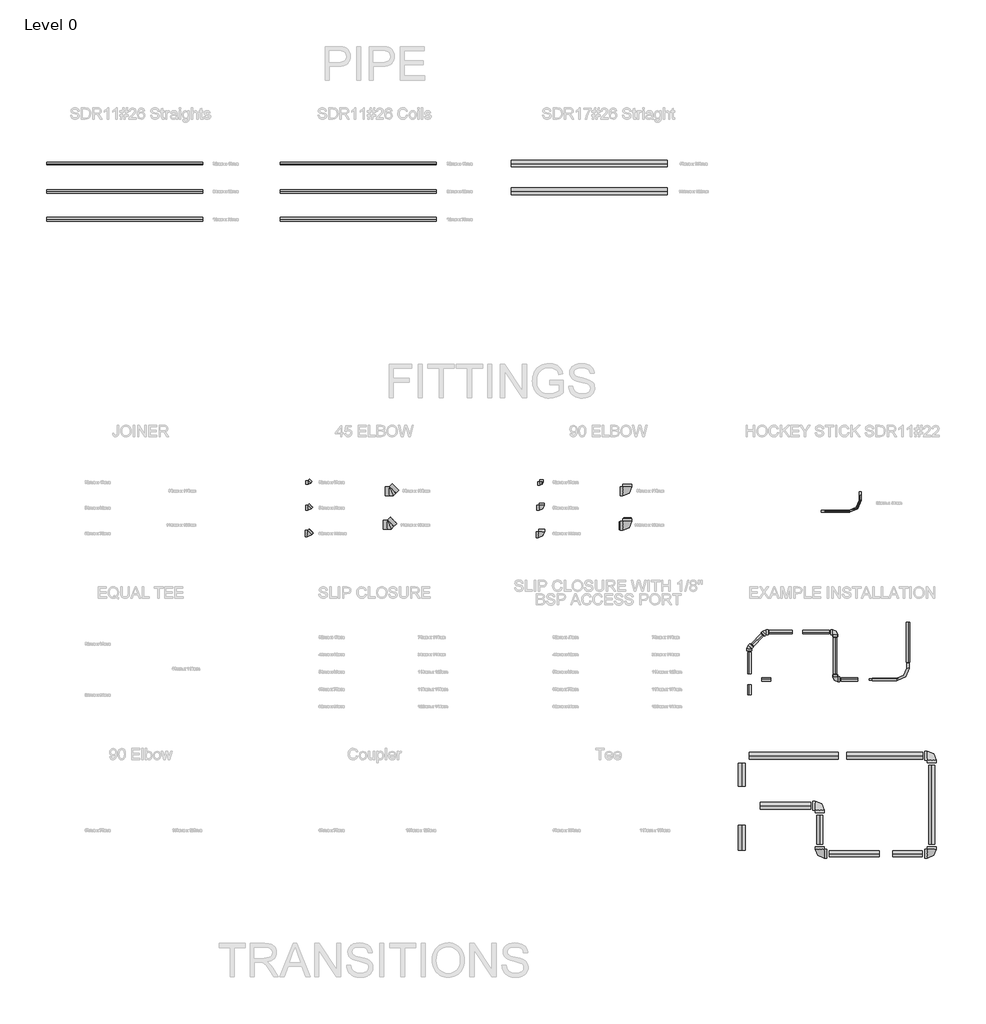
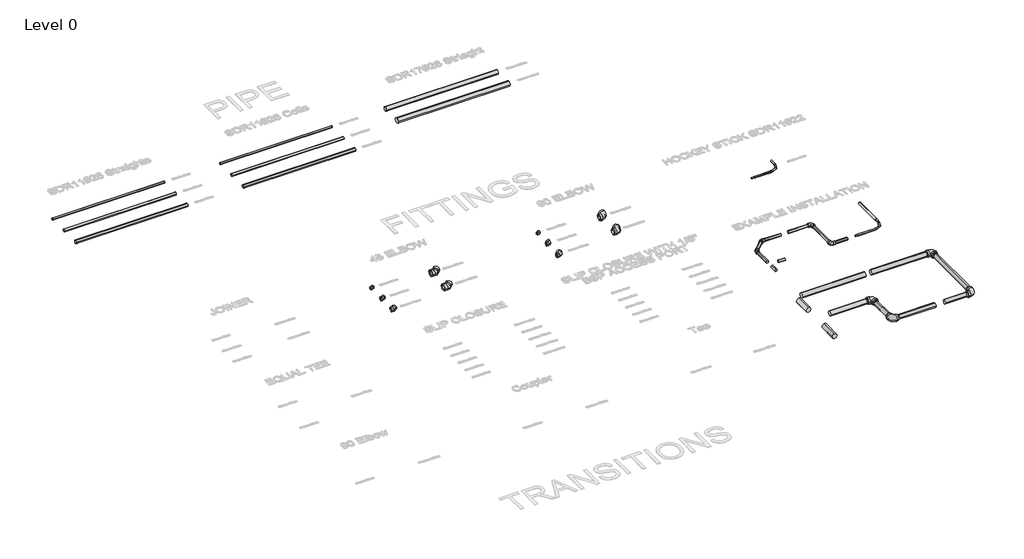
# One storey, part 1 of 21: 46 pipe fittings.
"""IFC4 building model written with IfcOpenShell, lengths in millimetres."""

from ifc_helpers import new_model, si_unit, point, frame, frame_2d, origin, place, context, project, spatial, circle_curve, trimmed, segment, composite_curve, outline, extrude, transform, mapped, element, save
from components import pipe_fitting_110mm_x_160mm_b5c858ce, pipe_fitting_110mm_x_160mm_ff918d63, pipe_fitting_32mm_x_40mm_faf2e842, pipe_fitting_32mm_x_63mm_b57f120e, pipe_fitting_32mm_x_63mm_78bfc543, pipe_fitting_50mm_x_90mm_f965051a, pipe_fitting_50mm_x_90mm_390558eb, pipe_fitting_63mm_x_110mm_ed71349d, pipe_fitting_63mm_x_110mm_e73a593b, pipe_fitting_90mm_x_160mm_308f8551, pipe_fitting_90mm_x_160mm_57b9e27f

model = new_model("IFC4")

# Units and contexts
model_context = context("Model", 3, world=origin())
ifc_project = project(units=[si_unit("LENGTHUNIT", "METRE", prefix="MILLI")], contexts=[model_context])

# Site, building, storey
site = spatial("IfcSite", under=ifc_project)
building = spatial("IfcBuilding", under=site)
storey = spatial("IfcBuildingStorey", under=building, Name="Level 0", Elevation=0.0)

# Pipe fittings
placement = place(None, origin())
element("IfcPipeFitting", 1, ObjectType="SDR17#26 Striaght", at=placement, inside=storey, context=model_context, shape_type="SweptSolid", body=[
    extrude(outline(composite_curve([segment(trimmed(circle_curve(frame_2d((3349.2704861, 0.0)), 55.0), [point((3404.2704861, 0.0))], [point((3349.2704861, -55.0))], False, "CARTESIAN"), True, "CONTINUOUS"), segment(trimmed(circle_curve(frame_2d((3349.2704861, 0.0)), 55.0), [point((3349.2704861, -55.0))], [point((3294.2704861, 0.0))], False, "CARTESIAN"), True, "CONTINUOUS"), segment(trimmed(circle_curve(frame_2d((3349.2704861, 0.0)), 55.0), [point((3294.2704861, 0.0))], [point((3349.2704861, 55.0))], False, "CARTESIAN"), True, "CONTINUOUS"), segment(trimmed(circle_curve(frame_2d((3349.2704861, 0.0)), 55.0), [point((3349.2704861, 55.0))], [point((3404.2704861, 0.0))], False, "CARTESIAN"), True, "CONTINUOUS")], self_intersect=False)), frame((-3990.0674359, 0.0, 0.0), z_axis=(1.0, 0.0, 0.0), x_axis=(0.0, 1.0, 0.0)), (0.0, 0.0, 1.0), 2800.0),
])
element("IfcPipeFitting", 2, ObjectType="SDR17#26 Striaght", at=placement, inside=storey, context=model_context, shape_type="SweptSolid", body=[
    extrude(outline(composite_curve([segment(trimmed(circle_curve(frame_2d((2849.2704861, 0.0)), 62.5), [point((2911.7704861, 0.0))], [point((2849.2704861, -62.5))], False, "CARTESIAN"), True, "CONTINUOUS"), segment(trimmed(circle_curve(frame_2d((2849.2704861, 0.0)), 62.5), [point((2849.2704861, -62.5))], [point((2786.7704861, 0.0))], False, "CARTESIAN"), True, "CONTINUOUS"), segment(trimmed(circle_curve(frame_2d((2849.2704861, 0.0)), 62.5), [point((2786.7704861, 0.0))], [point((2849.2704861, 62.5))], False, "CARTESIAN"), True, "CONTINUOUS"), segment(trimmed(circle_curve(frame_2d((2849.2704861, 0.0)), 62.5), [point((2849.2704861, 62.5))], [point((2911.7704861, 0.0))], False, "CARTESIAN"), True, "CONTINUOUS")], self_intersect=False)), frame((-3990.0674359, 0.0, 0.0), z_axis=(1.0, 0.0, 0.0), x_axis=(0.0, 1.0, 0.0)), (0.0, 0.0, 1.0), 2800.0),
])
element("IfcPipeFitting", 3, ObjectType="SDR11#26 Coils", at=placement, inside=storey, context=model_context, shape_type="SweptSolid", body=[
    extrude(outline(composite_curve([segment(trimmed(circle_curve(frame_2d((3349.2704861, 0.0)), 20.0), [point((3369.2704861, 0.0))], [point((3349.2704861, -20.0))], False, "CARTESIAN"), True, "CONTINUOUS"), segment(trimmed(circle_curve(frame_2d((3349.2704861, 0.0)), 20.0), [point((3349.2704861, -20.0))], [point((3329.2704861, 0.0))], False, "CARTESIAN"), True, "CONTINUOUS"), segment(trimmed(circle_curve(frame_2d((3349.2704861, 0.0)), 20.0), [point((3329.2704861, 0.0))], [point((3349.2704861, 20.0))], False, "CARTESIAN"), True, "CONTINUOUS"), segment(trimmed(circle_curve(frame_2d((3349.2704861, 0.0)), 20.0), [point((3349.2704861, 20.0))], [point((3369.2704861, 0.0))], False, "CARTESIAN"), True, "CONTINUOUS")], self_intersect=False)), frame((-8128.8002581, 0.0, 0.0), z_axis=(1.0, 0.0, 0.0), x_axis=(0.0, 1.0, 0.0)), (0.0, 0.0, 1.0), 2800.0),
])
element("IfcPipeFitting", 4, ObjectType="SDR11#26 Coils", at=placement, inside=storey, context=model_context, shape_type="SweptSolid", body=[
    extrude(outline(composite_curve([segment(trimmed(circle_curve(frame_2d((2849.2704861, 0.0)), 31.5), [point((2880.7704861, 0.0))], [point((2849.2704861, -31.5))], False, "CARTESIAN"), True, "CONTINUOUS"), segment(trimmed(circle_curve(frame_2d((2849.2704861, 0.0)), 31.5), [point((2849.2704861, -31.5))], [point((2817.7704861, 0.0))], False, "CARTESIAN"), True, "CONTINUOUS"), segment(trimmed(circle_curve(frame_2d((2849.2704861, 0.0)), 31.5), [point((2817.7704861, 0.0))], [point((2849.2704861, 31.5))], False, "CARTESIAN"), True, "CONTINUOUS"), segment(trimmed(circle_curve(frame_2d((2849.2704861, 0.0)), 31.5), [point((2849.2704861, 31.5))], [point((2880.7704861, 0.0))], False, "CARTESIAN"), True, "CONTINUOUS")], self_intersect=False)), frame((-8128.8002581, 0.0, 0.0), z_axis=(1.0, 0.0, 0.0), x_axis=(0.0, 1.0, 0.0)), (0.0, 0.0, 1.0), 2800.0),
])
element("IfcPipeFitting", 5, ObjectType="SDR11#26 Coils", at=placement, inside=storey, context=model_context, shape_type="SweptSolid", body=[
    extrude(outline(composite_curve([segment(trimmed(circle_curve(frame_2d((2349.2704861, 0.0)), 37.5), [point((2386.7704861, 0.0))], [point((2349.2704861, -37.5))], False, "CARTESIAN"), True, "CONTINUOUS"), segment(trimmed(circle_curve(frame_2d((2349.2704861, 0.0)), 37.5), [point((2349.2704861, -37.5))], [point((2311.7704861, 0.0))], False, "CARTESIAN"), True, "CONTINUOUS"), segment(trimmed(circle_curve(frame_2d((2349.2704861, 0.0)), 37.5), [point((2311.7704861, 0.0))], [point((2349.2704861, 37.5))], False, "CARTESIAN"), True, "CONTINUOUS"), segment(trimmed(circle_curve(frame_2d((2349.2704861, 0.0)), 37.5), [point((2349.2704861, 37.5))], [point((2386.7704861, 0.0))], False, "CARTESIAN"), True, "CONTINUOUS")], self_intersect=False)), frame((-8128.8002581, 0.0, 0.0), z_axis=(1.0, 0.0, 0.0), x_axis=(0.0, 1.0, 0.0)), (0.0, 0.0, 1.0), 2800.0),
])
element("IfcPipeFitting", 6, ObjectType="SDR11#26 Straights", at=placement, inside=storey, context=model_context, shape_type="SweptSolid", body=[
    extrude(outline(composite_curve([segment(trimmed(circle_curve(frame_2d((3349.2704861, 0.0)), 20.0), [point((3369.2704861, 0.0))], [point((3349.2704861, -20.0))], False, "CARTESIAN"), True, "CONTINUOUS"), segment(trimmed(circle_curve(frame_2d((3349.2704861, 0.0)), 20.0), [point((3349.2704861, -20.0))], [point((3329.2704861, 0.0))], False, "CARTESIAN"), True, "CONTINUOUS"), segment(trimmed(circle_curve(frame_2d((3349.2704861, 0.0)), 20.0), [point((3329.2704861, 0.0))], [point((3349.2704861, 20.0))], False, "CARTESIAN"), True, "CONTINUOUS"), segment(trimmed(circle_curve(frame_2d((3349.2704861, 0.0)), 20.0), [point((3349.2704861, 20.0))], [point((3369.2704861, 0.0))], False, "CARTESIAN"), True, "CONTINUOUS")], self_intersect=False)), frame((-12328.8002581, 0.0, 0.0), z_axis=(1.0, 0.0, 0.0), x_axis=(0.0, 1.0, 0.0)), (0.0, 0.0, 1.0), 2800.0),
])
element("IfcPipeFitting", 7, ObjectType="SDR11#26 Straights", at=placement, inside=storey, context=model_context, shape_type="SweptSolid", body=[
    extrude(outline(composite_curve([segment(trimmed(circle_curve(frame_2d((2849.2704861, 0.0)), 31.5), [point((2880.7704861, 0.0))], [point((2849.2704861, -31.5))], False, "CARTESIAN"), True, "CONTINUOUS"), segment(trimmed(circle_curve(frame_2d((2849.2704861, 0.0)), 31.5), [point((2849.2704861, -31.5))], [point((2817.7704861, 0.0))], False, "CARTESIAN"), True, "CONTINUOUS"), segment(trimmed(circle_curve(frame_2d((2849.2704861, 0.0)), 31.5), [point((2817.7704861, 0.0))], [point((2849.2704861, 31.5))], False, "CARTESIAN"), True, "CONTINUOUS"), segment(trimmed(circle_curve(frame_2d((2849.2704861, 0.0)), 31.5), [point((2849.2704861, 31.5))], [point((2880.7704861, 0.0))], False, "CARTESIAN"), True, "CONTINUOUS")], self_intersect=False)), frame((-12328.8002581, 0.0, 0.0), z_axis=(1.0, 0.0, 0.0), x_axis=(0.0, 1.0, 0.0)), (0.0, 0.0, 1.0), 2800.0),
])
element("IfcPipeFitting", 8, ObjectType="SDR11#26 Straights", at=placement, inside=storey, context=model_context, shape_type="SweptSolid", body=[
    extrude(outline(composite_curve([segment(trimmed(circle_curve(frame_2d((2349.2704861, 0.0)), 37.5), [point((2386.7704861, 0.0))], [point((2349.2704861, -37.5))], False, "CARTESIAN"), True, "CONTINUOUS"), segment(trimmed(circle_curve(frame_2d((2349.2704861, 0.0)), 37.5), [point((2349.2704861, -37.5))], [point((2311.7704861, 0.0))], False, "CARTESIAN"), True, "CONTINUOUS"), segment(trimmed(circle_curve(frame_2d((2349.2704861, 0.0)), 37.5), [point((2311.7704861, 0.0))], [point((2349.2704861, 37.5))], False, "CARTESIAN"), True, "CONTINUOUS"), segment(trimmed(circle_curve(frame_2d((2349.2704861, 0.0)), 37.5), [point((2349.2704861, 37.5))], [point((2386.7704861, 0.0))], False, "CARTESIAN"), True, "CONTINUOUS")], self_intersect=False)), frame((-12328.8002581, 0.0, 0.0), z_axis=(1.0, 0.0, 0.0), x_axis=(0.0, 1.0, 0.0)), (0.0, 0.0, 1.0), 2800.0),
])
element("IfcPipeFitting", 9, ObjectType="SDR17#26 Striaght", at=placement, inside=storey, context=model_context, shape_type="SweptSolid", body=[
    extrude(outline(composite_curve([segment(trimmed(circle_curve(frame_2d((-8180.4782028, 0.0)), 62.5), [point((-8117.9782028, 0.0))], [point((-8180.4782028, -62.5))], False, "CARTESIAN"), True, "CONTINUOUS"), segment(trimmed(circle_curve(frame_2d((-8180.4782028, 0.0)), 62.5), [point((-8180.4782028, -62.5))], [point((-8242.9782028, 0.0))], False, "CARTESIAN"), True, "CONTINUOUS"), segment(trimmed(circle_curve(frame_2d((-8180.4782028, 0.0)), 62.5), [point((-8242.9782028, 0.0))], [point((-8180.4782028, 62.5))], False, "CARTESIAN"), True, "CONTINUOUS"), segment(trimmed(circle_curve(frame_2d((-8180.4782028, 0.0)), 62.5), [point((-8180.4782028, 62.5))], [point((-8117.9782028, 0.0))], False, "CARTESIAN"), True, "CONTINUOUS")], self_intersect=False)), frame((484.1237756, 0.0, 0.0), z_axis=(1.0, 0.0, 0.0), x_axis=(0.0, 1.0, 0.0)), (0.0, 0.0, 1.0), 908.0),
])
element("IfcPipeFitting", 10, ObjectType="SDR17#26 Striaght", at=placement, inside=storey, context=model_context, shape_type="SweptSolid", body=[
    extrude(outline(composite_curve([segment(trimmed(circle_curve(frame_2d((0.0, 1551.1237756)), 55.0), [point((0.0, 1496.1237756))], [point((-55.0, 1551.1237756))], False, "CARTESIAN"), True, "CONTINUOUS"), segment(trimmed(circle_curve(frame_2d((0.0, 1551.1237756)), 55.0), [point((-55.0, 1551.1237756))], [point((0.0, 1606.1237756))], False, "CARTESIAN"), True, "CONTINUOUS"), segment(trimmed(circle_curve(frame_2d((0.0, 1551.1237756)), 55.0), [point((0.0, 1606.1237756))], [point((55.0, 1551.1237756))], False, "CARTESIAN"), True, "CONTINUOUS"), segment(trimmed(circle_curve(frame_2d((0.0, 1551.1237756)), 55.0), [point((55.0, 1551.1237756))], [point((0.0, 1496.1237756))], False, "CARTESIAN"), True, "CONTINUOUS")], self_intersect=False)), frame((0.0, -8867.3420077, 0.0), z_axis=(0.0, 1.0, 0.0), x_axis=(0.0, 0.0, 1.0)), (0.0, 0.0, 1.0), 514.8638049),
])
element("IfcPipeFitting", 11, ObjectType="SDR17#26 Striaght", at=placement, inside=storey, context=model_context, shape_type="SweptSolid", body=[
    extrude(outline(composite_curve([segment(trimmed(circle_curve(frame_2d((-9039.3420077, 0.0)), 55.0), [point((-9094.3420077, 0.0))], [point((-9039.3420077, 55.0))], False, "CARTESIAN"), True, "CONTINUOUS"), segment(trimmed(circle_curve(frame_2d((-9039.3420077, 0.0)), 55.0), [point((-9039.3420077, 55.0))], [point((-8984.3420077, 0.0))], False, "CARTESIAN"), True, "CONTINUOUS"), segment(trimmed(circle_curve(frame_2d((-9039.3420077, 0.0)), 55.0), [point((-8984.3420077, 0.0))], [point((-9039.3420077, -55.0))], False, "CARTESIAN"), True, "CONTINUOUS"), segment(trimmed(circle_curve(frame_2d((-9039.3420077, 0.0)), 55.0), [point((-9039.3420077, -55.0))], [point((-9094.3420077, 0.0))], False, "CARTESIAN"), True, "CONTINUOUS")], self_intersect=False)), frame((2864.1237756, 0.0, 0.0), z_axis=(1.0, 0.0, 0.0), x_axis=(0.0, 1.0, 0.0)), (0.0, 0.0, 1.0), 528.0),
])
element("IfcPipeFitting", 12, ObjectType="SDR17#26 Striaght", at=placement, inside=storey, context=model_context, shape_type="SweptSolid", body=[
    extrude(outline(composite_curve([segment(trimmed(circle_curve(frame_2d((-9039.3420077, 0.0)), 55.0), [point((-9094.3420077, 0.0))], [point((-9039.3420077, 55.0))], False, "CARTESIAN"), True, "CONTINUOUS"), segment(trimmed(circle_curve(frame_2d((-9039.3420077, 0.0)), 55.0), [point((-9039.3420077, 55.0))], [point((-8984.3420077, 0.0))], False, "CARTESIAN"), True, "CONTINUOUS"), segment(trimmed(circle_curve(frame_2d((-9039.3420077, 0.0)), 55.0), [point((-8984.3420077, 0.0))], [point((-9039.3420077, -55.0))], False, "CARTESIAN"), True, "CONTINUOUS"), segment(trimmed(circle_curve(frame_2d((-9039.3420077, 0.0)), 55.0), [point((-9039.3420077, -55.0))], [point((-9094.3420077, 0.0))], False, "CARTESIAN"), True, "CONTINUOUS")], self_intersect=False)), frame((1723.1237756, 0.0, 0.0), z_axis=(1.0, 0.0, 0.0), x_axis=(0.0, 1.0, 0.0)), (0.0, 0.0, 1.0), 899.0),
])
element("IfcPipeFitting", 13, ObjectType="SDR17#26 Striaght", at=placement, inside=storey, context=model_context, shape_type="SweptSolid", body=[
    extrude(outline(composite_curve([segment(trimmed(circle_curve(frame_2d((0.0, 151.1237756)), 62.5), [point((0.0, 213.6237756))], [point((62.5, 151.1237756))], False, "CARTESIAN"), True, "CONTINUOUS"), segment(trimmed(circle_curve(frame_2d((0.0, 151.1237756)), 62.5), [point((62.5, 151.1237756))], [point((0.0, 88.6237756))], False, "CARTESIAN"), True, "CONTINUOUS"), segment(trimmed(circle_curve(frame_2d((0.0, 151.1237756)), 62.5), [point((0.0, 88.6237756))], [point((-62.5, 151.1237756))], False, "CARTESIAN"), True, "CONTINUOUS"), segment(trimmed(circle_curve(frame_2d((0.0, 151.1237756)), 62.5), [point((-62.5, 151.1237756))], [point((0.0, 213.6237756))], False, "CARTESIAN"), True, "CONTINUOUS")], self_intersect=False)), frame((0.0, -7830.4782028, 0.0), z_axis=(0.0, 1.0, 0.0), x_axis=(0.0, 0.0, 1.0)), (0.0, 0.0, 1.0), 413.0),
])
element("IfcPipeFitting", 14, ObjectType="SDR17#26 Striaght", at=placement, inside=storey, context=model_context, shape_type="SweptSolid", body=[
    extrude(outline(composite_curve([segment(trimmed(circle_curve(frame_2d((0.0, 151.1237756)), 62.5), [point((0.0, 88.6237756))], [point((-62.5, 151.1237756))], False, "CARTESIAN"), True, "CONTINUOUS"), segment(trimmed(circle_curve(frame_2d((0.0, 151.1237756)), 62.5), [point((-62.5, 151.1237756))], [point((0.0, 213.6237756))], False, "CARTESIAN"), True, "CONTINUOUS"), segment(trimmed(circle_curve(frame_2d((0.0, 151.1237756)), 62.5), [point((0.0, 213.6237756))], [point((62.5, 151.1237756))], False, "CARTESIAN"), True, "CONTINUOUS"), segment(trimmed(circle_curve(frame_2d((0.0, 151.1237756)), 62.5), [point((62.5, 151.1237756))], [point((0.0, 88.6237756))], False, "CARTESIAN"), True, "CONTINUOUS")], self_intersect=False)), frame((0.0, -8975.4782028, 0.0), z_axis=(0.0, 1.0, 0.0), x_axis=(0.0, 0.0, 1.0)), (0.0, 0.0, 1.0), 445.0),
])
element("IfcPipeFitting", 15, ObjectType="SDR17#26 Striaght", at=placement, inside=storey, context=model_context, shape_type="SweptSolid", body=[
    extrude(outline(composite_curve([segment(trimmed(circle_curve(frame_2d((-7280.4782028, 0.0)), 62.5), [point((-7342.9782028, 0.0))], [point((-7280.4782028, 62.5))], False, "CARTESIAN"), True, "CONTINUOUS"), segment(trimmed(circle_curve(frame_2d((-7280.4782028, 0.0)), 62.5), [point((-7280.4782028, 62.5))], [point((-7217.9782028, 0.0))], False, "CARTESIAN"), True, "CONTINUOUS"), segment(trimmed(circle_curve(frame_2d((-7280.4782028, 0.0)), 62.5), [point((-7217.9782028, 0.0))], [point((-7280.4782028, -62.5))], False, "CARTESIAN"), True, "CONTINUOUS"), segment(trimmed(circle_curve(frame_2d((-7280.4782028, 0.0)), 62.5), [point((-7280.4782028, -62.5))], [point((-7342.9782028, 0.0))], False, "CARTESIAN"), True, "CONTINUOUS")], self_intersect=False)), frame((2034.8821715, 0.0, 0.0), z_axis=(1.0, 0.0, 0.0), x_axis=(0.0, 1.0, 0.0)), (0.0, 0.0, 1.0), 1370.2416041),
])
element("IfcPipeFitting", 16, ObjectType="SDR11#26 Straights", at=placement, inside=storey, context=model_context, shape_type="SweptSolid", body=[
    extrude(outline(composite_curve([segment(trimmed(circle_curve(frame_2d((-5061.8718525, 0.0)), 31.5), [point((-5093.3718525, 0.0))], [point((-5061.8718525, 31.5))], False, "CARTESIAN"), True, "CONTINUOUS"), segment(trimmed(circle_curve(frame_2d((-5061.8718525, 0.0)), 31.5), [point((-5061.8718525, 31.5))], [point((-5030.3718525, 0.0))], False, "CARTESIAN"), True, "CONTINUOUS"), segment(trimmed(circle_curve(frame_2d((-5061.8718525, 0.0)), 31.5), [point((-5030.3718525, 0.0))], [point((-5061.8718525, -31.5))], False, "CARTESIAN"), True, "CONTINUOUS"), segment(trimmed(circle_curve(frame_2d((-5061.8718525, 0.0)), 31.5), [point((-5061.8718525, -31.5))], [point((-5093.3718525, 0.0))], False, "CARTESIAN"), True, "CONTINUOUS")], self_intersect=False)), frame((1245.4068891, 0.0, 0.0), z_axis=(1.0, 0.0, 0.0), x_axis=(0.0, 1.0, 0.0)), (0.0, 0.0, 1.0), 479.2377231),
])
element("IfcPipeFitting", 17, ObjectType="SDR11#26 Straights", at=placement, inside=storey, context=model_context, shape_type="SweptSolid", body=[
    extrude(outline(composite_curve([segment(trimmed(circle_curve(frame_2d((0.0, 1829.6446122)), 31.5), [point((0.0, 1798.1446122))], [point((-31.5, 1829.6446122))], False, "CARTESIAN"), True, "CONTINUOUS"), segment(trimmed(circle_curve(frame_2d((0.0, 1829.6446122)), 31.5), [point((-31.5, 1829.6446122))], [point((0.0, 1861.1446122))], False, "CARTESIAN"), True, "CONTINUOUS"), segment(trimmed(circle_curve(frame_2d((0.0, 1829.6446122)), 31.5), [point((0.0, 1861.1446122))], [point((31.5, 1829.6446122))], False, "CARTESIAN"), True, "CONTINUOUS"), segment(trimmed(circle_curve(frame_2d((0.0, 1829.6446122)), 31.5), [point((31.5, 1829.6446122))], [point((0.0, 1798.1446122))], False, "CARTESIAN"), True, "CONTINUOUS")], self_intersect=False)), frame((0.0, -5808.014565, 0.0), z_axis=(0.0, 1.0, 0.0), x_axis=(0.0, 0.0, 1.0)), (0.0, 0.0, 1.0), 641.1427125),
])
element("IfcPipeFitting", 18, ObjectType="SDR11#26 Straights", at=placement, inside=storey, context=model_context, shape_type="SweptSolid", body=[
    extrude(outline(composite_curve([segment(trimmed(circle_curve(frame_2d((-5913.014565, 0.0)), 31.5), [point((-5944.514565, 0.0))], [point((-5913.014565, 31.5))], False, "CARTESIAN"), True, "CONTINUOUS"), segment(trimmed(circle_curve(frame_2d((-5913.014565, 0.0)), 31.5), [point((-5913.014565, 31.5))], [point((-5881.514565, 0.0))], False, "CARTESIAN"), True, "CONTINUOUS"), segment(trimmed(circle_curve(frame_2d((-5913.014565, 0.0)), 31.5), [point((-5881.514565, 0.0))], [point((-5913.014565, -31.5))], False, "CARTESIAN"), True, "CONTINUOUS"), segment(trimmed(circle_curve(frame_2d((-5913.014565, 0.0)), 31.5), [point((-5913.014565, -31.5))], [point((-5944.514565, 0.0))], False, "CARTESIAN"), True, "CONTINUOUS")], self_intersect=False)), frame((1934.6446122, 0.0, 0.0), z_axis=(1.0, 0.0, 0.0), x_axis=(0.0, 1.0, 0.0)), (0.0, 0.0, 1.0), 303.8),
])
element("IfcPipeFitting", 19, ObjectType="SDR17#26 Striaght", at=placement, inside=storey, context=model_context, shape_type="SweptSolid", body=[
    extrude(outline(composite_curve([segment(trimmed(circle_curve(frame_2d((-7280.4782028, 0.0)), 62.5), [point((-7342.9782028, 0.0))], [point((-7280.4782028, 62.5))], False, "CARTESIAN"), True, "CONTINUOUS"), segment(trimmed(circle_curve(frame_2d((-7280.4782028, 0.0)), 62.5), [point((-7280.4782028, 62.5))], [point((-7217.9782028, 0.0))], False, "CARTESIAN"), True, "CONTINUOUS"), segment(trimmed(circle_curve(frame_2d((-7280.4782028, 0.0)), 62.5), [point((-7217.9782028, 0.0))], [point((-7280.4782028, -62.5))], False, "CARTESIAN"), True, "CONTINUOUS"), segment(trimmed(circle_curve(frame_2d((-7280.4782028, 0.0)), 62.5), [point((-7280.4782028, -62.5))], [point((-7342.9782028, 0.0))], False, "CARTESIAN"), True, "CONTINUOUS")], self_intersect=False)), frame((288.1237756, 0.0, 0.0), z_axis=(1.0, 0.0, 0.0), x_axis=(0.0, 1.0, 0.0)), (0.0, 0.0, 1.0), 1594.2583959),
])
element("IfcPipeFitting", 20, ObjectType="SDR17#26 Striaght", at=placement, inside=storey, context=model_context, shape_type="SweptSolid", body=[
    extrude(outline(composite_curve([segment(trimmed(circle_curve(frame_2d((0.0, 3564.1237756)), 55.0), [point((0.0, 3509.1237756))], [point((-55.0, 3564.1237756))], False, "CARTESIAN"), True, "CONTINUOUS"), segment(trimmed(circle_curve(frame_2d((0.0, 3564.1237756)), 55.0), [point((-55.0, 3564.1237756))], [point((0.0, 3619.1237756))], False, "CARTESIAN"), True, "CONTINUOUS"), segment(trimmed(circle_curve(frame_2d((0.0, 3564.1237756)), 55.0), [point((0.0, 3619.1237756))], [point((55.0, 3564.1237756))], False, "CARTESIAN"), True, "CONTINUOUS"), segment(trimmed(circle_curve(frame_2d((0.0, 3564.1237756)), 55.0), [point((55.0, 3564.1237756))], [point((0.0, 3509.1237756))], False, "CARTESIAN"), True, "CONTINUOUS")], self_intersect=False)), frame((0.0, -8867.3420077, 0.0), z_axis=(0.0, 1.0, 0.0), x_axis=(0.0, 0.0, 1.0)), (0.0, 0.0, 1.0), 1414.8638049),
])
element("IfcPipeFitting", 21, ObjectType="SDR11#26 Straights", at=placement, inside=storey, context=model_context, shape_type="SweptSolid", body=[
    extrude(outline(composite_curve([segment(trimmed(circle_curve(frame_2d((0.0, -31.5)), 31.5), [point((-31.5, -31.5))], [point((0.0, 0.0))], False, "CARTESIAN"), True, "CONTINUOUS"), segment(trimmed(circle_curve(frame_2d((0.0, -31.5)), 31.5), [point((0.0, 0.0))], [point((31.5, -31.5))], False, "CARTESIAN"), True, "CONTINUOUS"), segment(trimmed(circle_curve(frame_2d((0.0, -31.5)), 31.5), [point((31.5, -31.5))], [point((0.0, -63.0))], False, "CARTESIAN"), True, "CONTINUOUS"), segment(trimmed(circle_curve(frame_2d((0.0, -31.5)), 31.5), [point((0.0, -63.0))], [point((-31.5, -31.5))], False, "CARTESIAN"), True, "CONTINUOUS")], self_intersect=False)), frame((344.6285561, -5290.5501856, -31.5), z_axis=(0.7071067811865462, 0.7071067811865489, 0.0), x_axis=(0.7071067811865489, -0.7071067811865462, 0.0)), (0.0, 0.0, 1.0), 246.8),
])
element("IfcPipeFitting", 22, ObjectType="SDR11#26 Straights", at=placement, inside=storey, context=model_context, shape_type="SweptSolid", body=[
    extrude(outline(composite_curve([segment(trimmed(circle_curve(frame_2d((-5913.014565, 0.0)), 31.5), [point((-5944.514565, 0.0))], [point((-5913.014565, 31.5))], False, "CARTESIAN"), True, "CONTINUOUS"), segment(trimmed(circle_curve(frame_2d((-5913.014565, 0.0)), 31.5), [point((-5913.014565, 31.5))], [point((-5881.514565, 0.0))], False, "CARTESIAN"), True, "CONTINUOUS"), segment(trimmed(circle_curve(frame_2d((-5913.014565, 0.0)), 31.5), [point((-5881.514565, 0.0))], [point((-5913.014565, -31.5))], False, "CARTESIAN"), True, "CONTINUOUS"), segment(trimmed(circle_curve(frame_2d((-5913.014565, 0.0)), 31.5), [point((-5913.014565, -31.5))], [point((-5944.514565, 0.0))], False, "CARTESIAN"), True, "CONTINUOUS")], self_intersect=False)), frame((506.4641766, 0.0, 0.0), z_axis=(1.0, 0.0, 0.0), x_axis=(0.0, 1.0, 0.0)), (0.0, 0.0, 1.0), 164.0),
])
element("IfcPipeFitting", 23, ObjectType="SDR11#26 Straights", at=placement, inside=storey, context=model_context, shape_type="SweptSolid", body=[
    extrude(outline(composite_curve([segment(trimmed(circle_curve(frame_2d((0.0, 290.4641766)), 31.5), [point((0.0, 258.9641766))], [point((-31.5, 290.4641766))], False, "CARTESIAN"), True, "CONTINUOUS"), segment(trimmed(circle_curve(frame_2d((0.0, 290.4641766)), 31.5), [point((-31.5, 290.4641766))], [point((0.0, 321.9641766))], False, "CARTESIAN"), True, "CONTINUOUS"), segment(trimmed(circle_curve(frame_2d((0.0, 290.4641766)), 31.5), [point((0.0, 321.9641766))], [point((31.5, 290.4641766))], False, "CARTESIAN"), True, "CONTINUOUS"), segment(trimmed(circle_curve(frame_2d((0.0, 290.4641766)), 31.5), [point((31.5, 290.4641766))], [point((0.0, 258.9641766))], False, "CARTESIAN"), True, "CONTINUOUS")], self_intersect=False)), frame((0.0, -6184.714565, 0.0), z_axis=(0.0, 1.0, 0.0), x_axis=(0.0, 0.0, 1.0)), (0.0, 0.0, 1.0), 172.7),
])
element("IfcPipeFitting", 24, ObjectType="SDR11#26 Straights", at=placement, inside=storey, context=model_context, shape_type="SweptSolid", body=[
    extrude(outline(composite_curve([segment(trimmed(circle_curve(frame_2d((0.0, 290.4641766)), 31.5), [point((0.0, 258.9641766))], [point((-31.5, 290.4641766))], False, "CARTESIAN"), True, "CONTINUOUS"), segment(trimmed(circle_curve(frame_2d((0.0, 290.4641766)), 31.5), [point((-31.5, 290.4641766))], [point((0.0, 321.9641766))], False, "CARTESIAN"), True, "CONTINUOUS"), segment(trimmed(circle_curve(frame_2d((0.0, 290.4641766)), 31.5), [point((0.0, 321.9641766))], [point((31.5, 290.4641766))], False, "CARTESIAN"), True, "CONTINUOUS"), segment(trimmed(circle_curve(frame_2d((0.0, 290.4641766)), 31.5), [point((31.5, 290.4641766))], [point((0.0, 258.9641766))], False, "CARTESIAN"), True, "CONTINUOUS")], self_intersect=False)), frame((0.0, -5814.014565, 0.0), z_axis=(0.0, 1.0, 0.0), x_axis=(0.0, 0.0, 1.0)), (0.0, 0.0, 1.0), 392.7),
])
element("IfcPipeFitting", 25, ObjectType="SDR11#26 Straights", at=placement, inside=storey, context=model_context, shape_type="SweptSolid", body=[
    extrude(outline(composite_curve([segment(trimmed(circle_curve(frame_2d((-5061.8718525, 0.0)), 31.5), [point((-5093.3718525, 0.0))], [point((-5061.8718525, 31.5))], False, "CARTESIAN"), True, "CONTINUOUS"), segment(trimmed(circle_curve(frame_2d((-5061.8718525, 0.0)), 31.5), [point((-5061.8718525, 31.5))], [point((-5030.3718525, 0.0))], False, "CARTESIAN"), True, "CONTINUOUS"), segment(trimmed(circle_curve(frame_2d((-5061.8718525, 0.0)), 31.5), [point((-5030.3718525, 0.0))], [point((-5061.8718525, -31.5))], False, "CARTESIAN"), True, "CONTINUOUS"), segment(trimmed(circle_curve(frame_2d((-5061.8718525, 0.0)), 31.5), [point((-5061.8718525, -31.5))], [point((-5093.3718525, 0.0))], False, "CARTESIAN"), True, "CONTINUOUS")], self_intersect=False)), frame((649.9068891, 0.0, 0.0), z_axis=(1.0, 0.0, 0.0), x_axis=(0.0, 1.0, 0.0)), (0.0, 0.0, 1.0), 404.5),
])
element("IfcPipeFitting", 26, ObjectType="SDR11#26 Straights", at=placement, inside=storey, context=model_context, shape_type="SweptSolid", body=[
    extrude(outline(composite_curve([segment(trimmed(circle_curve(frame_2d((0.0, 3136.9029328)), 31.5), [point((0.0, 3168.4029328))], [point((31.5, 3136.9029328))], False, "CARTESIAN"), True, "CONTINUOUS"), segment(trimmed(circle_curve(frame_2d((0.0, 3136.9029328)), 31.5), [point((31.5, 3136.9029328))], [point((0.0, 3105.4029328))], False, "CARTESIAN"), True, "CONTINUOUS"), segment(trimmed(circle_curve(frame_2d((0.0, 3136.9029328)), 31.5), [point((0.0, 3105.4029328))], [point((-31.5, 3136.9029328))], False, "CARTESIAN"), True, "CONTINUOUS"), segment(trimmed(circle_curve(frame_2d((0.0, 3136.9029328)), 31.5), [point((-31.5, 3136.9029328))], [point((0.0, 3168.4029328))], False, "CARTESIAN"), True, "CONTINUOUS")], self_intersect=False)), frame((0.0, -5599.514565, 0.0), z_axis=(0.0, 1.0, 0.0), x_axis=(0.0, 0.0, 1.0)), (0.0, 0.0, 1.0), 716.5),
])
pipe_fitting_110mm_x_160mm_shape = pipe_fitting_110mm_x_160mm_b5c858ce(model_context)
element("IfcPipeFitting", 27, ObjectType="Durapipe_PipeFittings_PLX_CloseFit_45Elbow : 110mm x 160mm", at=placement, inside=storey, context=model_context, shape_type="MappedRepresentation", body=[
    mapped(pipe_fitting_110mm_x_160mm_shape, transform((-6176.3100617, -3133.2112631, 0.0), x_axis=(1.0, 0.0, 0.0), y_axis=(0.0, 1.0, 0.0), z_axis=(0.0, 0.0, 1.0))),
])
pipe_fitting_110mm_x_160mm_2_shape = pipe_fitting_110mm_x_160mm_ff918d63(model_context)
element("IfcPipeFitting", 28, ObjectType="Durapipe_PipeFittings_PLX_CloseFit_90Elbow : 110mm x 160mm", at=placement, inside=storey, context=model_context, shape_type="MappedRepresentation", body=[
    mapped(pipe_fitting_110mm_x_160mm_2_shape, transform((-1901.3678285, -3153.2112631, 0.0), x_axis=(1.0, 0.0, 0.0), y_axis=(0.0, 1.0, 0.0), z_axis=(0.0, 0.0, 1.0))),
])
pipe_fitting_32mm_x_40mm_shape = pipe_fitting_32mm_x_40mm_faf2e842(model_context)
element("IfcPipeFitting", 29, ObjectType="Durapipe_PipeFittings_PLX_CloseFit_HockeyStick : 32mm x 40mm", at=placement, inside=storey, context=model_context, shape_type="MappedRepresentation", body=[
    mapped(pipe_fitting_32mm_x_40mm_shape, transform((2278.6321715, -2893.2112631, 0.0), x_axis=(1.0, 0.0, 0.0), y_axis=(0.0, 1.0, 0.0), z_axis=(0.0, 0.0, 1.0))),
])
element("IfcPipeFitting", 30, ObjectType="Durapipe_PipeFittings_PLX_CloseFit_HockeyStick : 32mm x 40mm", at=placement, inside=storey, context=model_context, shape_type="MappedRepresentation", body=[
    mapped(pipe_fitting_32mm_x_40mm_shape, transform((3136.9029328, -5913.014565, 0.0), x_axis=(1.0, 0.0, 0.0), y_axis=(0.0, 1.0, 0.0), z_axis=(0.0, 0.0, 1.0))),
])
pipe_fitting_32mm_x_63mm_shape = pipe_fitting_32mm_x_63mm_b57f120e(model_context)
element("IfcPipeFitting", 31, ObjectType="Durapipe_PipeFittings_PLX_CloseFit_45Elbow : 32mm x 63mm", at=placement, inside=storey, context=model_context, shape_type="MappedRepresentation", body=[
    mapped(pipe_fitting_32mm_x_63mm_shape, transform((-7621.3678285, -2373.2112631, 0.0), x_axis=(1.0, 0.0, 0.0), y_axis=(0.0, 1.0, 0.0), z_axis=(0.0, 0.0, 1.0))),
])
pipe_fitting_32mm_x_63mm_2_shape = pipe_fitting_32mm_x_63mm_78bfc543(model_context)
element("IfcPipeFitting", 32, ObjectType="Durapipe_PipeFittings_PLX_CloseFit_90Elbow : 32mm x 63mm", at=placement, inside=storey, context=model_context, shape_type="MappedRepresentation", body=[
    mapped(pipe_fitting_32mm_x_63mm_2_shape, transform((-3441.3678285, -2393.2112631, 0.0), x_axis=(1.0, 0.0, 0.0), y_axis=(0.0, 1.0, 0.0), z_axis=(0.0, 0.0, 1.0))),
])
pipe_fitting_50mm_x_90mm_shape = pipe_fitting_50mm_x_90mm_f965051a(model_context)
element("IfcPipeFitting", 33, ObjectType="Durapipe_PipeFittings_PLX_CloseFit_45Elbow : 50mm x 90mm", at=placement, inside=storey, context=model_context, shape_type="MappedRepresentation", body=[
    mapped(pipe_fitting_50mm_x_90mm_shape, transform((-7621.3678285, -2833.2112631, 0.0), x_axis=(1.0, 0.0, 0.0), y_axis=(0.0, 1.0, 0.0), z_axis=(0.0, 0.0, 1.0))),
])
element("IfcPipeFitting", 34, ObjectType="Durapipe_PipeFittings_PLX_CloseFit_45Elbow : 50mm x 90mm", at=placement, inside=storey, context=model_context, shape_type="MappedRepresentation", body=[
    mapped(pipe_fitting_50mm_x_90mm_shape, transform((573.3068891, -5061.8718525, 0.0), x_axis=(-1.0, 0.0, 0.0), y_axis=(0.0, -1.0, 0.0), z_axis=(0.0, 0.0, 1.0))),
])
element("IfcPipeFitting", 35, ObjectType="Durapipe_PipeFittings_PLX_CloseFit_45Elbow : 50mm x 90mm", at=placement, inside=storey, context=model_context, shape_type="MappedRepresentation", body=[
    mapped(pipe_fitting_50mm_x_90mm_shape, transform((290.4641766, -5344.714565, 0.0), x_axis=(-0.7071067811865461, -0.7071067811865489, 0.0), y_axis=(0.7071067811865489, -0.7071067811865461, 0.0), z_axis=(0.0, 0.0, 1.0))),
])
pipe_fitting_50mm_x_90mm_2_shape = pipe_fitting_50mm_x_90mm_390558eb(model_context)
element("IfcPipeFitting", 36, ObjectType="Durapipe_PipeFittings_PLX_CloseFit_90Elbow : 50mm x 90mm", at=placement, inside=storey, context=model_context, shape_type="MappedRepresentation", body=[
    mapped(pipe_fitting_50mm_x_90mm_2_shape, transform((-3441.3678285, -2833.2112631, 0.0), x_axis=(1.0, 0.0, 0.0), y_axis=(0.0, 1.0, 0.0), z_axis=(0.0, 0.0, 1.0))),
])
element("IfcPipeFitting", 37, ObjectType="Durapipe_PipeFittings_PLX_CloseFit_90Elbow : 50mm x 90mm", at=placement, inside=storey, context=model_context, shape_type="MappedRepresentation", body=[
    mapped(pipe_fitting_50mm_x_90mm_2_shape, transform((1829.6446122, -5061.8718525, 0.0), x_axis=(0.0, 1.0, 0.0), y_axis=(-1.0, 0.0, 0.0), z_axis=(0.0, 0.0, 1.0))),
])
element("IfcPipeFitting", 38, ObjectType="Durapipe_PipeFittings_PLX_CloseFit_90Elbow : 50mm x 90mm", at=placement, inside=storey, context=model_context, shape_type="MappedRepresentation", body=[
    mapped(pipe_fitting_50mm_x_90mm_2_shape, transform((1829.6446122, -5913.014565, 0.0), x_axis=(0.0, -1.0, 0.0), y_axis=(1.0, 0.0, 0.0), z_axis=(0.0, 0.0, 1.0))),
])
pipe_fitting_63mm_x_110mm_shape = pipe_fitting_63mm_x_110mm_ed71349d(model_context)
element("IfcPipeFitting", 39, ObjectType="Durapipe_PipeFittings_PLX_CloseFit_45Elbow : 63mm x 110mm", at=placement, inside=storey, context=model_context, shape_type="MappedRepresentation", body=[
    mapped(pipe_fitting_63mm_x_110mm_shape, transform((-7621.3678285, -3293.2112631, 0.0), x_axis=(1.0, 0.0, 0.0), y_axis=(0.0, 1.0, 0.0), z_axis=(0.0, 0.0, 1.0))),
])
pipe_fitting_63mm_x_110mm_2_shape = pipe_fitting_63mm_x_110mm_e73a593b(model_context)
element("IfcPipeFitting", 40, ObjectType="Durapipe_PipeFittings_PLX_CloseFit_90Elbow : 63mm x 110mm", at=placement, inside=storey, context=model_context, shape_type="MappedRepresentation", body=[
    mapped(pipe_fitting_63mm_x_110mm_2_shape, transform((-3441.3678285, -3313.2112631, 0.0), x_axis=(1.0, 0.0, 0.0), y_axis=(0.0, 1.0, 0.0), z_axis=(0.0, 0.0, 1.0))),
])
pipe_fitting_90mm_x_160mm_shape = pipe_fitting_90mm_x_160mm_308f8551(model_context)
element("IfcPipeFitting", 41, ObjectType="Durapipe_PipeFittings_PLX_CloseFit_45Elbow : 90mm x 160mm", at=placement, inside=storey, context=model_context, shape_type="MappedRepresentation", body=[
    mapped(pipe_fitting_90mm_x_160mm_shape, transform((-6141.3678285, -2533.2112631, 0.0), x_axis=(1.0, 0.0, 0.0), y_axis=(0.0, 1.0, 0.0), z_axis=(0.0, 0.0, 1.0))),
])
pipe_fitting_90mm_x_160mm_2_shape = pipe_fitting_90mm_x_160mm_57b9e27f(model_context)
element("IfcPipeFitting", 42, ObjectType="Durapipe_PipeFittings_PLX_CloseFit_90Elbow : 90mm x 160mm", at=placement, inside=storey, context=model_context, shape_type="MappedRepresentation", body=[
    mapped(pipe_fitting_90mm_x_160mm_2_shape, transform((-1901.3678285, -2533.2112631, 0.0), x_axis=(1.0, 0.0, 0.0), y_axis=(0.0, 1.0, 0.0), z_axis=(0.0, 0.0, 1.0))),
])
element("IfcPipeFitting", 43, ObjectType="Durapipe_PipeFittings_PLX_CloseFit_90Elbow : 90mm x 160mm", at=placement, inside=storey, context=model_context, shape_type="MappedRepresentation", body=[
    mapped(pipe_fitting_90mm_x_160mm_2_shape, transform((1551.1237756, -9039.3420077, 0.0), x_axis=(0.0, -1.0, 0.0), y_axis=(1.0, 0.0, 0.0), z_axis=(0.0, 0.0, 1.0))),
])
element("IfcPipeFitting", 44, ObjectType="Durapipe_PipeFittings_PLX_CloseFit_90Elbow : 90mm x 160mm", at=placement, inside=storey, context=model_context, shape_type="MappedRepresentation", body=[
    mapped(pipe_fitting_90mm_x_160mm_2_shape, transform((1551.1237756, -8180.4782028, 0.0), x_axis=(0.0, 1.0, 0.0), y_axis=(-1.0, 0.0, 0.0), z_axis=(0.0, 0.0, 1.0))),
])
element("IfcPipeFitting", 45, ObjectType="Durapipe_PipeFittings_PLX_CloseFit_90Elbow : 90mm x 160mm", at=placement, inside=storey, context=model_context, shape_type="MappedRepresentation", body=[
    mapped(pipe_fitting_90mm_x_160mm_2_shape, transform((3564.1237756, -7280.4782028, 0.0), x_axis=(0.0, 1.0, 0.0), y_axis=(-1.0, 0.0, 0.0), z_axis=(0.0, 0.0, 1.0))),
])
element("IfcPipeFitting", 46, ObjectType="Durapipe_PipeFittings_PLX_CloseFit_90Elbow : 90mm x 160mm", at=placement, inside=storey, context=model_context, shape_type="MappedRepresentation", body=[
    mapped(pipe_fitting_90mm_x_160mm_2_shape, transform((3564.1237756, -9039.3420077, 0.0), x_axis=(1.0, 0.0, 0.0), y_axis=(0.0, 1.0, 0.0), z_axis=(0.0, 0.0, 1.0))),
])

save(model, "model.ifc")
